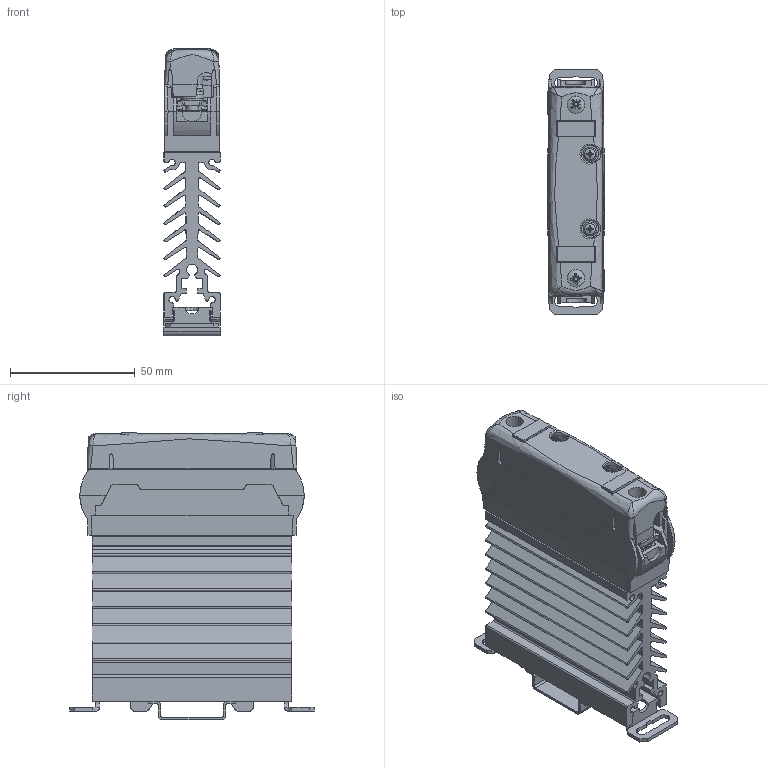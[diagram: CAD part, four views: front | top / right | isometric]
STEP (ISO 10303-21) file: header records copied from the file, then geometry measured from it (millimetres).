
FILE_DESCRIPTION((''),'2;1');
FILE_NAME('R:\Stock\3D pour clients\CELDUC references\2D3D 524 B.stp','2012-07-12T11:57:35',('Georges THOLLOT ','Tl : +33 (0)4 77 53 90 27','gthollot@celduc.com'),('Celduc r e l a i s','5, rue Ampre, BP 30004','42290 SORBIERS - France','Fax. : +33 (0)4 77 53 85 51','N siret 353 310 519 00015','ISO 9001 N QUAL/1993/1106b','www.celduc.com'),'Autodesk Inventor 2010','Autodesk Inventor 2010','');
FILE_SCHEMA(('CONFIG_CONTROL_DESIGN'));
Length unit declared in the file: millimetre
Products named in the file (8): SAL; WF311100; SA and cover; SA; Capot transparent; ESG 6_15_MC; NF E 25-514 Z4 - 160 HV; ISO 4762 M4 x 20
Assembly tree (10 placements, depth 3):
  SAL
    WF311100
    SA and cover
      SA
      Capot transparent
      ESG 6_15_MC  x2
    NF E 25-514 Z4 - 160 HV  x2
    ISO 4762 M4 x 20  x2
Bounding box: 22.53 x 98.03 x 115.36 mm (x, y, z)
Volume: 106970.4 mm3; surface area: 73744.2 mm2
Topology: 9 solids, 9 shells, 1283 faces, 3548 edges, 2275 vertices
Faces by surface type: plane 713, cylinder 242, bspline 203, cone 93, torus 24, sphere 8
Full cylindrical faces by diameter (mm): 2.729 x2, 3 x3, 4 x2, 4.3 x2, 4.5 x1, 4.567 x2, 5 x2, 5.5 x1, 7 x3, 8 x2, 8.5 x2
Entity records: 47559 total; most frequent: CARTESIAN_POINT 16734, ORIENTED_EDGE 6502, DIRECTION 5634, EDGE_CURVE 3251, VERTEX_POINT 2135, VECTOR 2110, LINE 2110, AXIS2_PLACEMENT_3D 1762
